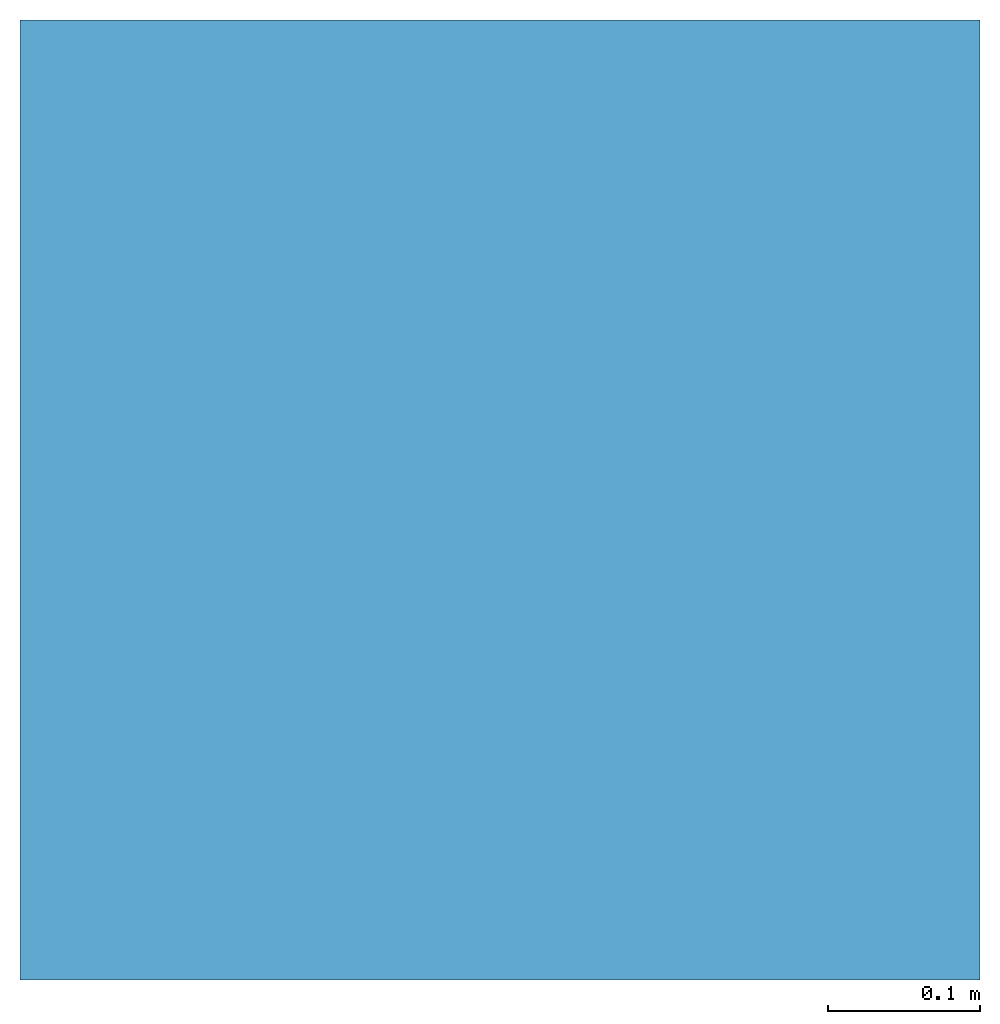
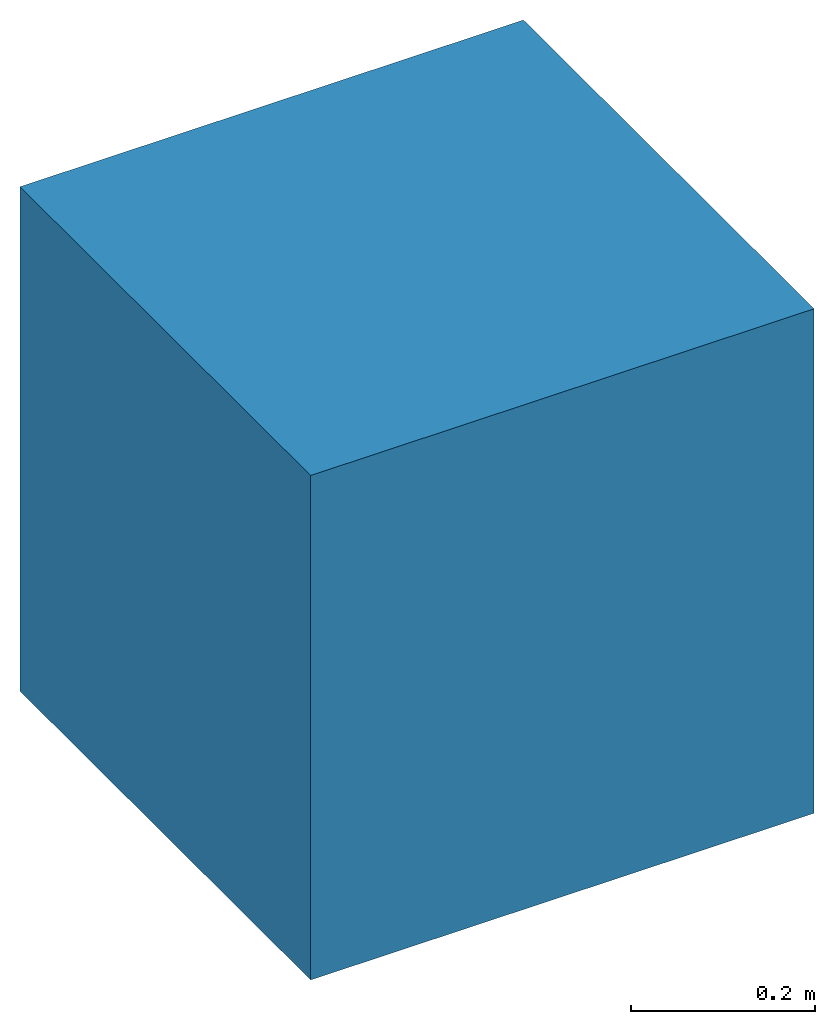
# One storey: 1 slab.
"""IFC4 building model written with IfcOpenShell, lengths in metres."""

from ifc_helpers import new_model, entity, si_unit, converted_unit, direction, frame, frame_2d, origin, origin_2d_with_axis, place, context, subcontext, project, spatial, rectangle, extrude, material, type_object, element, save


model = new_model("IFC4")

# Units and contexts
model_context = context("Model", 3, precision=1e-05, world=origin(), true_north=direction((6.123031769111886e-17, 1.0)))
body_context = subcontext(model_context, "Body", "Model", "MODEL_VIEW")
ifc_project = project(units=[si_unit("LENGTHUNIT", "METRE"), converted_unit("PLANEANGLEUNIT", "DEGREE", entity("IfcPlaneAngleMeasure", 0.017453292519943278), si_unit("PLANEANGLEUNIT", "RADIAN"), dimensions=[0, 0, 0, 0, 0, 0, 0]), si_unit("AREAUNIT", "SQUARE_METRE")], contexts=[model_context])

# Site, building, storey
site_placement = place(None, origin())
site = spatial("IfcSite", under=ifc_project, at=site_placement, Name="Default", CompositionType="ELEMENT")
building_placement = place(site_placement, origin())
building = spatial("IfcBuilding", under=site, at=building_placement, CompositionType="ELEMENT")
storey_placement = place(building_placement, origin())
storey = spatial("IfcBuildingStorey", under=building, at=storey_placement, Name="Ebene 0", CompositionType="ELEMENT", Elevation=0.0)

# Slab
ifc_material = material(Name="DB_Magerbeton", Category="DB_Beton")
slab_type = type_object("IfcSlabType", Name="DB_BSK_55_Fundament_Ecke_aussen:DB_BSK_55_Fundament_Ecke_aussen", PredefinedType="BASESLAB", material=ifc_material)
slab_placement = place(storey_placement, origin())
element("IfcSlab", 1, at=slab_placement, inside=storey, type_object=slab_type, Name="DB_BSK_55_Fundament_Ecke_aussen:DB_BSK_55_Fundament_Ecke_aussen", ObjectType="DB_BSK_55_Fundament_Ecke_aussen:DB_BSK_55_Fundament_Ecke_aussen", PredefinedType="BASESLAB", context=body_context, shape_type="SweptSolid", body=[
    extrude(rectangle(XDim=0.6325000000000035, YDim=0.632500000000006, at=origin_2d_with_axis()), frame((0.15625000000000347, 0.15625000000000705, -1.4701645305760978), z_axis=(0.0, 0.0, 1.0), x_axis=(-1.0, 0.0, 0.0)), (0.0, 0.0, 1.0), 0.12000000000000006),
    extrude(rectangle(XDim=0.6324999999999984, YDim=0.632500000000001, at=frame_2d((2.7755575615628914e-17, 0.0), x_axis=(1.0, 0.0))), frame((0.15625000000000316, 0.15625000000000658, -1.3501645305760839), z_axis=(0.0, 0.0, 1.0), x_axis=(-1.0, 0.0, 0.0)), (0.0, 0.0, 1.0), 0.5500000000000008),
])

save(model, "model.ifc")
